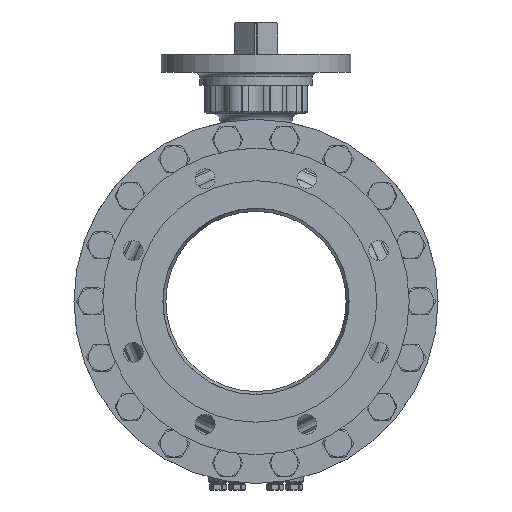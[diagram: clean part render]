
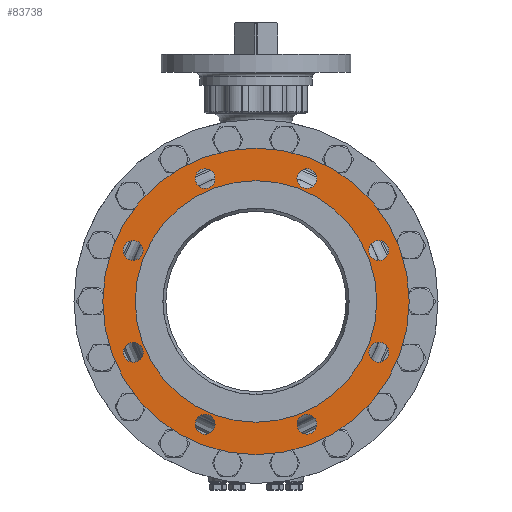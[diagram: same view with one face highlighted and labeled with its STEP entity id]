
A CAD part, left-side view. The second image highlights one B-rep face of the part: STEP entity #83738.
In plain terms, the highlighted planar face has unit normal (-1, 0, 0).
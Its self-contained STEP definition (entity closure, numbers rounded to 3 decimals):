
#10210=CARTESIAN_POINT('',(-225.5,0.,0.));
#10211=DIRECTION('',(-1.,0.,0.));
#10212=DIRECTION('',(0.,0.,1.));
#10213=AXIS2_PLACEMENT_3D('',#10210,#10211,#10212);
#10215=CARTESIAN_POINT('',(-225.5,0.,0.));
#10216=DIRECTION('',(-1.,0.,0.));
#10217=DIRECTION('',(0.,0.,-1.));
#10218=AXIS2_PLACEMENT_3D('',#10215,#10216,#10217);
#10220=CARTESIAN_POINT('',(-225.5,-56.446,136.272));
#10221=DIRECTION('',(-1.,0.,0.));
#10222=DIRECTION('',(0.,-1.,0.));
#10223=AXIS2_PLACEMENT_3D('',#10220,#10221,#10222);
#10225=CARTESIAN_POINT('',(-225.5,-56.446,136.272));
#10226=DIRECTION('',(-1.,0.,0.));
#10227=DIRECTION('',(0.,1.,0.));
#10228=AXIS2_PLACEMENT_3D('',#10225,#10226,#10227);
#10230=CARTESIAN_POINT('',(-225.5,56.446,136.272));
#10231=DIRECTION('',(-1.,0.,0.));
#10232=DIRECTION('',(0.,-0.707,0.707));
#10233=AXIS2_PLACEMENT_3D('',#10230,#10231,#10232);
#10235=CARTESIAN_POINT('',(-225.5,56.446,136.272));
#10236=DIRECTION('',(-1.,0.,0.));
#10237=DIRECTION('',(0.,0.707,-0.707));
#10238=AXIS2_PLACEMENT_3D('',#10235,#10236,#10237);
#10240=CARTESIAN_POINT('',(-225.5,136.272,56.446));
#10241=DIRECTION('',(-1.,0.,0.));
#10242=DIRECTION('',(0.,0.,1.));
#10243=AXIS2_PLACEMENT_3D('',#10240,#10241,#10242);
#10245=CARTESIAN_POINT('',(-225.5,136.272,56.446));
#10246=DIRECTION('',(-1.,0.,0.));
#10247=DIRECTION('',(0.,0.,-1.));
#10248=AXIS2_PLACEMENT_3D('',#10245,#10246,#10247);
#10250=CARTESIAN_POINT('',(-225.5,136.272,-56.446));
#10251=DIRECTION('',(-1.,0.,0.));
#10252=DIRECTION('',(0.,0.707,0.707));
#10253=AXIS2_PLACEMENT_3D('',#10250,#10251,#10252);
#10255=CARTESIAN_POINT('',(-225.5,136.272,-56.446));
#10256=DIRECTION('',(-1.,0.,0.));
#10257=DIRECTION('',(0.,-0.707,-0.707));
#10258=AXIS2_PLACEMENT_3D('',#10255,#10256,#10257);
#10260=CARTESIAN_POINT('',(-225.5,56.446,-136.272));
#10261=DIRECTION('',(-1.,0.,0.));
#10262=DIRECTION('',(0.,1.,0.));
#10263=AXIS2_PLACEMENT_3D('',#10260,#10261,#10262);
#10265=CARTESIAN_POINT('',(-225.5,56.446,-136.272));
#10266=DIRECTION('',(-1.,0.,0.));
#10267=DIRECTION('',(0.,-1.,0.));
#10268=AXIS2_PLACEMENT_3D('',#10265,#10266,#10267);
#10270=CARTESIAN_POINT('',(-225.5,-56.446,-136.272));
#10271=DIRECTION('',(-1.,0.,0.));
#10272=DIRECTION('',(0.,0.707,-0.707));
#10273=AXIS2_PLACEMENT_3D('',#10270,#10271,#10272);
#10275=CARTESIAN_POINT('',(-225.5,-56.446,-136.272));
#10276=DIRECTION('',(-1.,0.,0.));
#10277=DIRECTION('',(0.,-0.707,0.707));
#10278=AXIS2_PLACEMENT_3D('',#10275,#10276,#10277);
#10280=CARTESIAN_POINT('',(-225.5,-136.272,-56.446));
#10281=DIRECTION('',(-1.,0.,0.));
#10282=DIRECTION('',(0.,0.,-1.));
#10283=AXIS2_PLACEMENT_3D('',#10280,#10281,#10282);
#10285=CARTESIAN_POINT('',(-225.5,-136.272,-56.446));
#10286=DIRECTION('',(-1.,0.,0.));
#10287=DIRECTION('',(0.,0.,1.));
#10288=AXIS2_PLACEMENT_3D('',#10285,#10286,#10287);
#10290=CARTESIAN_POINT('',(-225.5,-136.272,56.446));
#10291=DIRECTION('',(-1.,0.,0.));
#10292=DIRECTION('',(0.,-0.707,-0.707));
#10293=AXIS2_PLACEMENT_3D('',#10290,#10291,#10292);
#10295=CARTESIAN_POINT('',(-225.5,-136.272,56.446));
#10296=DIRECTION('',(-1.,0.,0.));
#10297=DIRECTION('',(0.,0.707,0.707));
#10298=AXIS2_PLACEMENT_3D('',#10295,#10296,#10297);
#10304=CARTESIAN_POINT('',(-225.5,0.,0.));
#10305=DIRECTION('',(-1.,0.,0.));
#10306=DIRECTION('',(0.,0.,1.));
#10307=AXIS2_PLACEMENT_3D('',#10304,#10305,#10306);
#10333=CARTESIAN_POINT('',(-225.5,0.,0.));
#10334=DIRECTION('',(1.,0.,0.));
#10335=DIRECTION('',(0.,0.,1.));
#10336=AXIS2_PLACEMENT_3D('',#10333,#10334,#10335);
#59529=CARTESIAN_POINT('',(-225.5,0.,134.));
#59530=CARTESIAN_POINT('',(-225.5,0.,-134.));
#59531=VERTEX_POINT('',#59529);
#59532=VERTEX_POINT('',#59530);
#59533=CARTESIAN_POINT('',(-225.5,0.,170.));
#59534=CARTESIAN_POINT('',(-225.5,0.,-170.));
#59535=VERTEX_POINT('',#59533);
#59536=VERTEX_POINT('',#59534);
#59549=CARTESIAN_POINT('',(-225.5,-67.446,136.272));
#59550=CARTESIAN_POINT('',(-225.5,-45.446,136.272));
#59551=VERTEX_POINT('',#59549);
#59552=VERTEX_POINT('',#59550);
#59557=CARTESIAN_POINT('',(-225.5,48.668,144.05));
#59558=CARTESIAN_POINT('',(-225.5,64.224,128.494));
#59559=VERTEX_POINT('',#59557);
#59560=VERTEX_POINT('',#59558);
#59565=CARTESIAN_POINT('',(-225.5,136.272,67.446));
#59566=CARTESIAN_POINT('',(-225.5,136.272,45.446));
#59567=VERTEX_POINT('',#59565);
#59568=VERTEX_POINT('',#59566);
#59573=CARTESIAN_POINT('',(-225.5,144.05,-48.668));
#59574=CARTESIAN_POINT('',(-225.5,128.494,-64.224));
#59575=VERTEX_POINT('',#59573);
#59576=VERTEX_POINT('',#59574);
#59581=CARTESIAN_POINT('',(-225.5,67.446,-136.272));
#59582=CARTESIAN_POINT('',(-225.5,45.446,-136.272));
#59583=VERTEX_POINT('',#59581);
#59584=VERTEX_POINT('',#59582);
#59589=CARTESIAN_POINT('',(-225.5,-48.668,-144.05));
#59590=CARTESIAN_POINT('',(-225.5,-64.224,-128.494));
#59591=VERTEX_POINT('',#59589);
#59592=VERTEX_POINT('',#59590);
#59597=CARTESIAN_POINT('',(-225.5,-136.272,-67.446));
#59598=CARTESIAN_POINT('',(-225.5,-136.272,-45.446));
#59599=VERTEX_POINT('',#59597);
#59600=VERTEX_POINT('',#59598);
#59605=CARTESIAN_POINT('',(-225.5,-144.05,48.668));
#59606=CARTESIAN_POINT('',(-225.5,-128.494,64.224));
#59607=VERTEX_POINT('',#59605);
#59608=VERTEX_POINT('',#59606);
#83674=CARTESIAN_POINT('',(-225.5,0.,0.));
#83675=DIRECTION('',(1.,0.,0.));
#83676=DIRECTION('',(0.,0.,1.));
#83677=AXIS2_PLACEMENT_3D('',#83674,#83675,#83676);
#83678=PLANE('',#83677);
#83680=ORIENTED_EDGE('',*,*,#83679,.F.);
#83681=ORIENTED_EDGE('',*,*,#83664,.F.);
#83682=EDGE_LOOP('',(#83680,#83681));
#83683=FACE_OUTER_BOUND('',#83682,.F.);
#83685=ORIENTED_EDGE('',*,*,#83684,.T.);
#83687=ORIENTED_EDGE('',*,*,#83686,.F.);
#83688=EDGE_LOOP('',(#83685,#83687));
#83689=FACE_BOUND('',#83688,.F.);
#83691=ORIENTED_EDGE('',*,*,#83690,.T.);
#83693=ORIENTED_EDGE('',*,*,#83692,.T.);
#83694=EDGE_LOOP('',(#83691,#83693));
#83695=FACE_BOUND('',#83694,.F.);
#83697=ORIENTED_EDGE('',*,*,#83696,.T.);
#83699=ORIENTED_EDGE('',*,*,#83698,.T.);
#83700=EDGE_LOOP('',(#83697,#83699));
#83701=FACE_BOUND('',#83700,.F.);
#83703=ORIENTED_EDGE('',*,*,#83702,.T.);
#83705=ORIENTED_EDGE('',*,*,#83704,.T.);
#83706=EDGE_LOOP('',(#83703,#83705));
#83707=FACE_BOUND('',#83706,.F.);
#83709=ORIENTED_EDGE('',*,*,#83708,.T.);
#83711=ORIENTED_EDGE('',*,*,#83710,.T.);
#83712=EDGE_LOOP('',(#83709,#83711));
#83713=FACE_BOUND('',#83712,.F.);
#83715=ORIENTED_EDGE('',*,*,#83714,.T.);
#83717=ORIENTED_EDGE('',*,*,#83716,.T.);
#83718=EDGE_LOOP('',(#83715,#83717));
#83719=FACE_BOUND('',#83718,.F.);
#83721=ORIENTED_EDGE('',*,*,#83720,.T.);
#83723=ORIENTED_EDGE('',*,*,#83722,.T.);
#83724=EDGE_LOOP('',(#83721,#83723));
#83725=FACE_BOUND('',#83724,.F.);
#83727=ORIENTED_EDGE('',*,*,#83726,.T.);
#83729=ORIENTED_EDGE('',*,*,#83728,.T.);
#83730=EDGE_LOOP('',(#83727,#83729));
#83731=FACE_BOUND('',#83730,.F.);
#83733=ORIENTED_EDGE('',*,*,#83732,.T.);
#83735=ORIENTED_EDGE('',*,*,#83734,.T.);
#83736=EDGE_LOOP('',(#83733,#83735));
#83737=FACE_BOUND('',#83736,.F.);
#83738=ADVANCED_FACE('',(#83683,#83689,#83695,#83701,#83707,#83713,#83719,
#83725,#83731,#83737),#83678,.F.);
#10214=CIRCLE('',#10213,170.);
#10219=CIRCLE('',#10218,170.);
#10224=CIRCLE('',#10223,11.);
#10229=CIRCLE('',#10228,11.);
#10234=CIRCLE('',#10233,11.);
#10239=CIRCLE('',#10238,11.);
#10244=CIRCLE('',#10243,11.);
#10249=CIRCLE('',#10248,11.);
#10254=CIRCLE('',#10253,11.);
#10259=CIRCLE('',#10258,11.);
#10264=CIRCLE('',#10263,11.);
#10269=CIRCLE('',#10268,11.);
#10274=CIRCLE('',#10273,11.);
#10279=CIRCLE('',#10278,11.);
#10284=CIRCLE('',#10283,11.);
#10289=CIRCLE('',#10288,11.);
#10294=CIRCLE('',#10293,11.);
#10299=CIRCLE('',#10298,11.);
#10308=CIRCLE('',#10307,134.);
#10337=CIRCLE('',#10336,134.);
#83664=EDGE_CURVE('',#59536,#59535,#10219,.T.);
#83679=EDGE_CURVE('',#59535,#59536,#10214,.T.);
#83684=EDGE_CURVE('',#59531,#59532,#10308,.T.);
#83686=EDGE_CURVE('',#59531,#59532,#10337,.T.);
#83690=EDGE_CURVE('',#59551,#59552,#10224,.T.);
#83692=EDGE_CURVE('',#59552,#59551,#10229,.T.);
#83696=EDGE_CURVE('',#59559,#59560,#10234,.T.);
#83698=EDGE_CURVE('',#59560,#59559,#10239,.T.);
#83702=EDGE_CURVE('',#59567,#59568,#10244,.T.);
#83704=EDGE_CURVE('',#59568,#59567,#10249,.T.);
#83708=EDGE_CURVE('',#59575,#59576,#10254,.T.);
#83710=EDGE_CURVE('',#59576,#59575,#10259,.T.);
#83714=EDGE_CURVE('',#59583,#59584,#10264,.T.);
#83716=EDGE_CURVE('',#59584,#59583,#10269,.T.);
#83720=EDGE_CURVE('',#59591,#59592,#10274,.T.);
#83722=EDGE_CURVE('',#59592,#59591,#10279,.T.);
#83726=EDGE_CURVE('',#59599,#59600,#10284,.T.);
#83728=EDGE_CURVE('',#59600,#59599,#10289,.T.);
#83732=EDGE_CURVE('',#59607,#59608,#10294,.T.);
#83734=EDGE_CURVE('',#59608,#59607,#10299,.T.);
